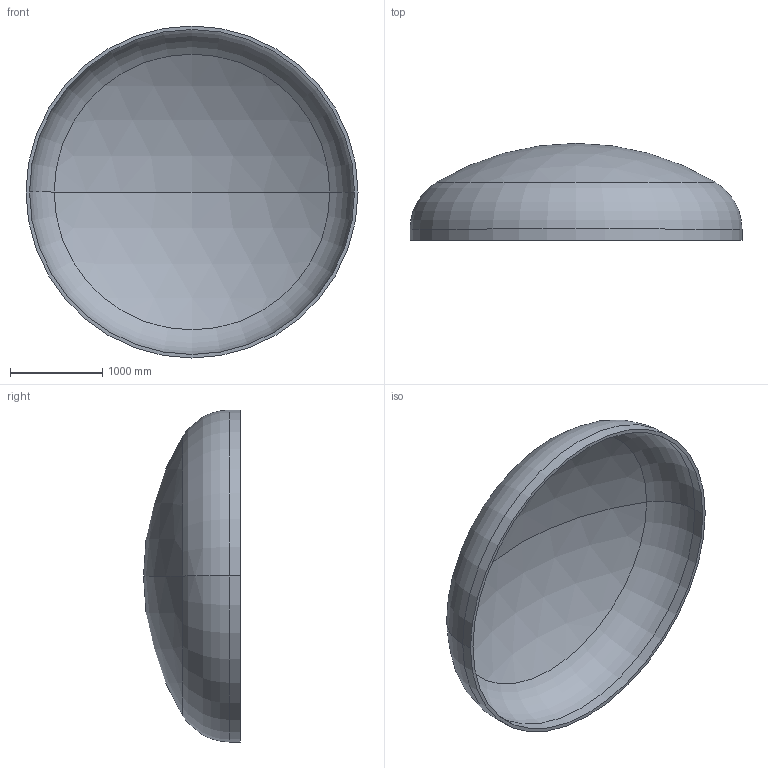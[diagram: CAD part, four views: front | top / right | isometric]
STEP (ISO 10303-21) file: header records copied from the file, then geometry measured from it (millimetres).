
FILE_DESCRIPTION (( 'STEP AP203' ), '1' );
FILE_NAME ('DIN 28013 Korbbogenform_-_Boden DIN 28013 - 3600 x 120 - I - s=38.step', '2016-07-01T20:23:18', ( '' ), ( '' ), 'SwSTEP 2.0', 'SolidWorks 2013', '' );
FILE_SCHEMA (( 'CONFIG_CONTROL_DESIGN' ));
Length unit declared in the file: millimetre
Products named in the file (1): DIN 28013 Korbbogenform_-_Boden DIN 28013 - 3600 x 120 - I - s=38
Bounding box: 3600 x 1050.85 x 3600 mm (x, y, z)
Volume: 579416705.2 mm3; surface area: 30923862.7 mm2
Topology: 1 solids, 1 shells, 13 faces, 24 edges, 14 vertices
Faces by surface type: torus 4, cylinder 4, sphere 4, plane 1
Entity records: 407 total; most frequent: DIRECTION 72, CARTESIAN_POINT 52, ORIENTED_EDGE 48, AXIS2_PLACEMENT_3D 34, EDGE_CURVE 24, CIRCLE 20, VERTEX_POINT 14, EDGE_LOOP 14
